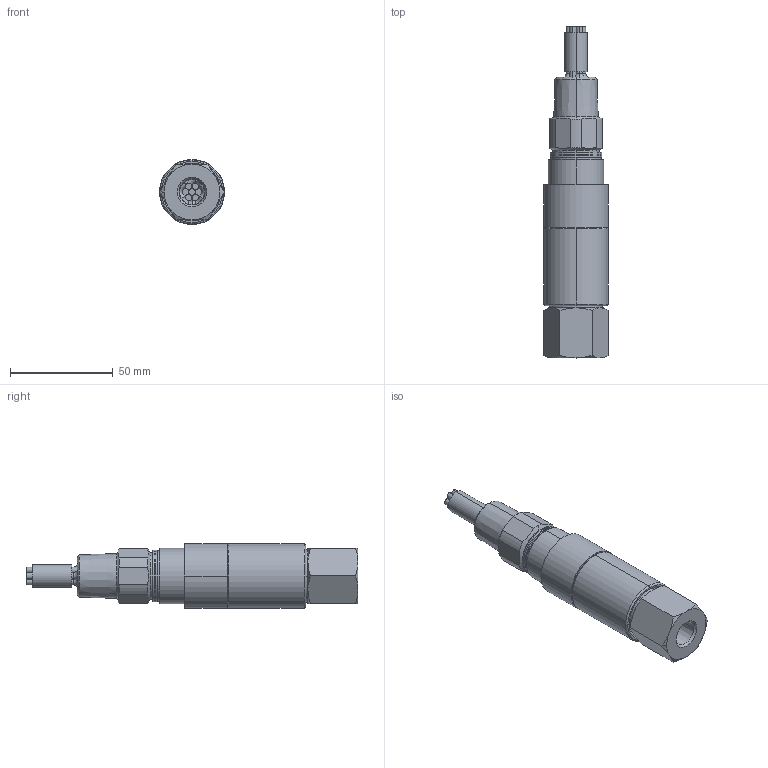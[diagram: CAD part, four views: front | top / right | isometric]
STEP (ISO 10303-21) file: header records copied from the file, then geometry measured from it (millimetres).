
FILE_DESCRIPTION (( 'STEP AP214' ), '1' );
FILE_NAME ('12SXXNP_0_4.STEP', '2025-04-02T12:29:28', ( '' ), ( '' ), 'SwSTEP 2.0', 'SolidWorks 2023', '' );
FILE_SCHEMA (( 'AUTOMOTIVE_DESIGN' ));
Length unit declared in the file: inch
Products named in the file (1): 12SXXNP_0_4
Bounding box: 31.56 x 161.32 x 31.56 mm (x, y, z)
Surface area: 18544.6 mm2 (no closed solid volume)
Topology: 0 solids, 10 shells, 134 faces, 324 edges, 206 vertices
Faces by surface type: cylinder 43, cone 37, plane 34, torus 16, bspline 4
Entity records: 4410 total; most frequent: CARTESIAN_POINT 1278, DIRECTION 696, ORIENTED_EDGE 609, EDGE_CURVE 324, AXIS2_PLACEMENT_3D 308, VERTEX_POINT 206, CIRCLE 177, EDGE_LOOP 149
